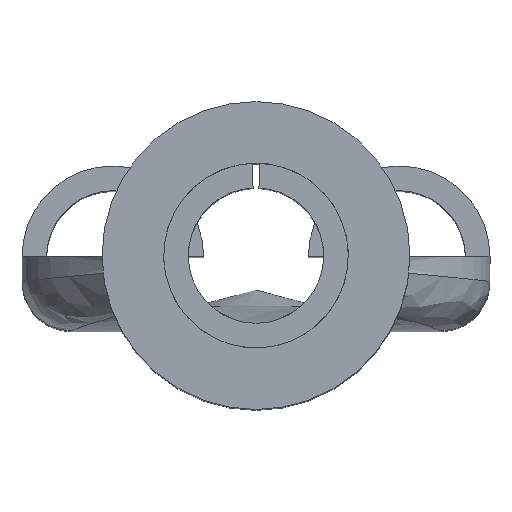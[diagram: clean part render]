
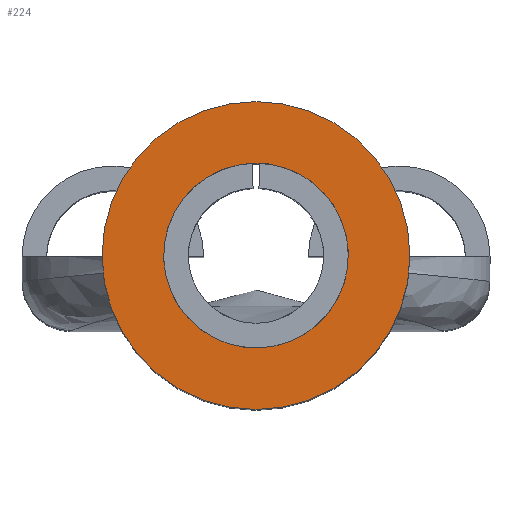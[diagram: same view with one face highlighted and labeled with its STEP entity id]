
A CAD part, top view. The second image highlights one B-rep face of the part: STEP entity #224.
In plain terms, the highlighted planar face has unit normal (0, 0, 1).
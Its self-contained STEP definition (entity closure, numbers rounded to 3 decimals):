
#123=CARTESIAN_POINT('',(-0.065,1.499,16.));
#124=VERTEX_POINT('',#123);
#125=CARTESIAN_POINT('',(0.0,0.,16.0));
#126=DIRECTION('',(0.,0.,-1.0));
#127=DIRECTION('',(0.044,0.999,0.));
#128=AXIS2_PLACEMENT_3D('',#125,#126,#127);
#129=CIRCLE('',#128,1.5);
#130=EDGE_CURVE('',#124,#124,#129,.T.);
#205=CARTESIAN_POINT('',(0.0,0.,16.0));
#206=DIRECTION('',(0.0,0.0,-1.0));
#207=DIRECTION('',(-1.0,0.0,0.0));
#208=AXIS2_PLACEMENT_3D('',#205,#206,#207);
#209=PLANE('',#208);
#210=CARTESIAN_POINT('',(2.5,0.,16.0));
#211=VERTEX_POINT('',#210);
#212=CARTESIAN_POINT('',(0.0,0.,16.0));
#213=DIRECTION('',(0.0,0.0,-1.0));
#214=DIRECTION('',(-1.0,0.0,0.0));
#215=AXIS2_PLACEMENT_3D('',#212,#213,#214);
#216=CIRCLE('',#215,2.5);
#217=EDGE_CURVE('',#211,#211,#216,.T.);
#218=ORIENTED_EDGE('',*,*,#217,.F.);
#219=EDGE_LOOP('',(#218));
#220=FACE_OUTER_BOUND('',#219,.T.);
#221=ORIENTED_EDGE('',*,*,#130,.T.);
#222=EDGE_LOOP('',(#221));
#223=FACE_BOUND('',#222,.T.);
#224=ADVANCED_FACE('',(#220,#223),#209,.F.);
